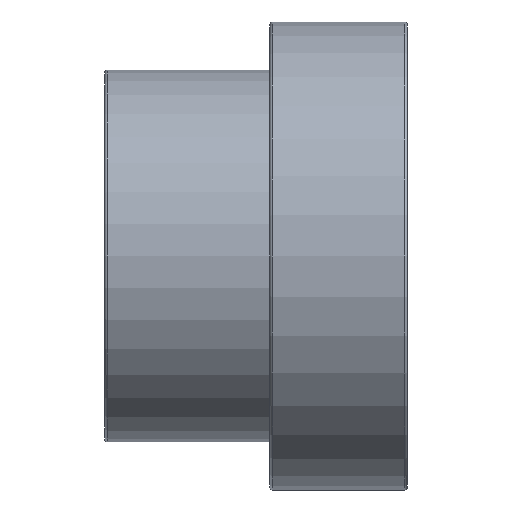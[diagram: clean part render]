
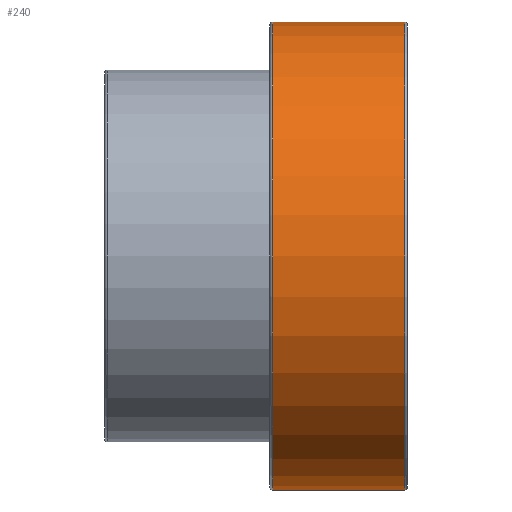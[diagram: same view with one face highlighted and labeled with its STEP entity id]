
A CAD part, front view. The second image highlights one B-rep face of the part: STEP entity #240.
In plain terms, the highlighted cylindrical face has radius 17 mm (diameter 34 mm), a full revolution.
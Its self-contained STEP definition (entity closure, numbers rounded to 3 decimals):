
#19=CYLINDRICAL_SURFACE('',#280,17.);
#42=FACE_BOUND('',#100,.T.);
#63=FACE_OUTER_BOUND('',#99,.T.);
#99=EDGE_LOOP('',(#204));
#100=EDGE_LOOP('',(#205));
#127=CIRCLE('',#279,17.);
#128=CIRCLE('',#281,17.);
#148=VERTEX_POINT('',#424);
#149=VERTEX_POINT('',#427);
#169=EDGE_CURVE('',#148,#148,#127,.T.);
#170=EDGE_CURVE('',#149,#149,#128,.T.);
#204=ORIENTED_EDGE('',*,*,#170,.F.);
#205=ORIENTED_EDGE('',*,*,#169,.F.);
#240=ADVANCED_FACE('',(#63,#42),#19,.T.);
#279=AXIS2_PLACEMENT_3D('',#425,#354,#355);
#280=AXIS2_PLACEMENT_3D('',#426,#356,#357);
#281=AXIS2_PLACEMENT_3D('',#428,#358,#359);
#354=DIRECTION('center_axis',(1.,0.,0.));
#355=DIRECTION('ref_axis',(0.,1.,0.));
#356=DIRECTION('center_axis',(-1.,0.,0.));
#357=DIRECTION('ref_axis',(0.,-1.,0.));
#358=DIRECTION('center_axis',(-1.,0.,0.));
#359=DIRECTION('ref_axis',(0.,1.,0.));
#424=CARTESIAN_POINT('',(21.8,-17.,0.));
#425=CARTESIAN_POINT('Origin',(21.8,0.,0.));
#426=CARTESIAN_POINT('Origin',(17.,0.,0.));
#427=CARTESIAN_POINT('',(12.2,-17.,0.));
#428=CARTESIAN_POINT('Origin',(12.2,0.,0.));
